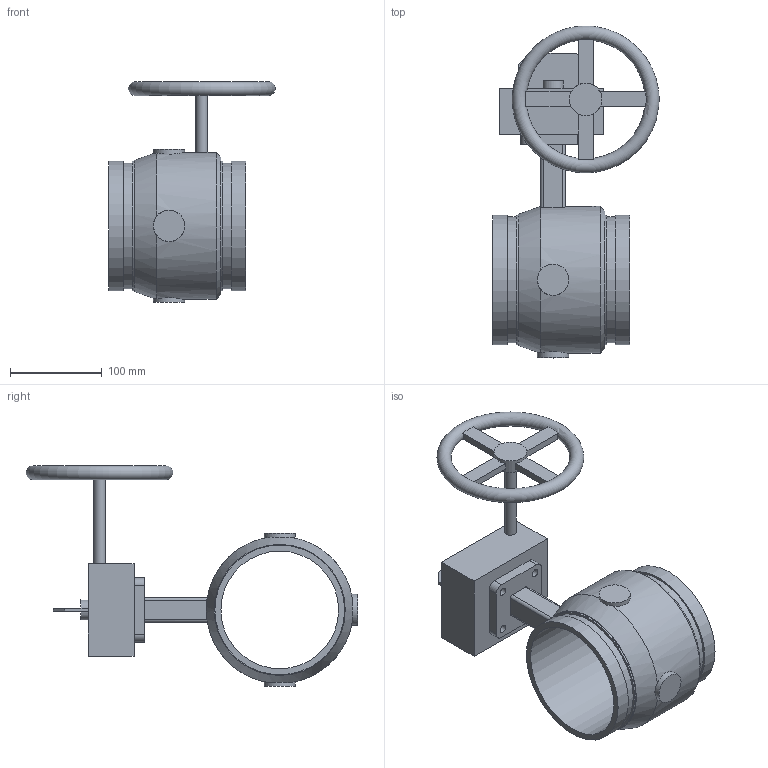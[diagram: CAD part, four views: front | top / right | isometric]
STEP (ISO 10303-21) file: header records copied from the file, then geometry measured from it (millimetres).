
FILE_DESCRIPTION(/* description */ ('VIC FP VALVE BUTTERFLY HP SERIES 766 (OGS)'),/* implementation_level */ '2;1');
FILE_NAME(/* name */ 'C:\Files for Export\766\Victaulic_EU_FP_Vlv Btfl HP_Series 766 (OGS)\Victaulic_EU_FP_Vlv Btfl HP_Series 766 (OGS)_5 (125).stp',/* time_stamp */ '2024-06-27T12:46:46+02:00',/* author */ ('cps_temp'),/* organization */ ('Victaulic'),/* preprocessor_version */ 'ST-DEVELOPER v18.1',/* originating_system */ 'Autodesk Inventor 2020',/* authorisation */ '');
FILE_SCHEMA (('AUTOMOTIVE_DESIGN { 1 0 10303 214 3 1 1 }'));
Length unit declared in the file: inch
Products named in the file (1): 766-05.0
Bounding box: 181.1 x 361.37 x 240.54 mm (x, y, z)
Volume: 1573182.2 mm3; surface area: 247805.2 mm2
Topology: 1 solids, 2 shells, 91 faces, 243 edges, 166 vertices
Faces by surface type: plane 59, cylinder 29, cone 2, torus 1
Full cylindrical faces by diameter (mm): 8.636 x4, 12.7 x2, 34.036 x3, 35.56 x1, 55.118 x1, 128.194 x1, 137.033 x2, 141.3 x4, 160.02 x1
Entity records: 3387 total; most frequent: CARTESIAN_POINT 866, DIRECTION 496, ORIENTED_EDGE 486, EDGE_CURVE 243, AXIS2_PLACEMENT_3D 191, VERTEX_POINT 166, LINE 114, VECTOR 114
